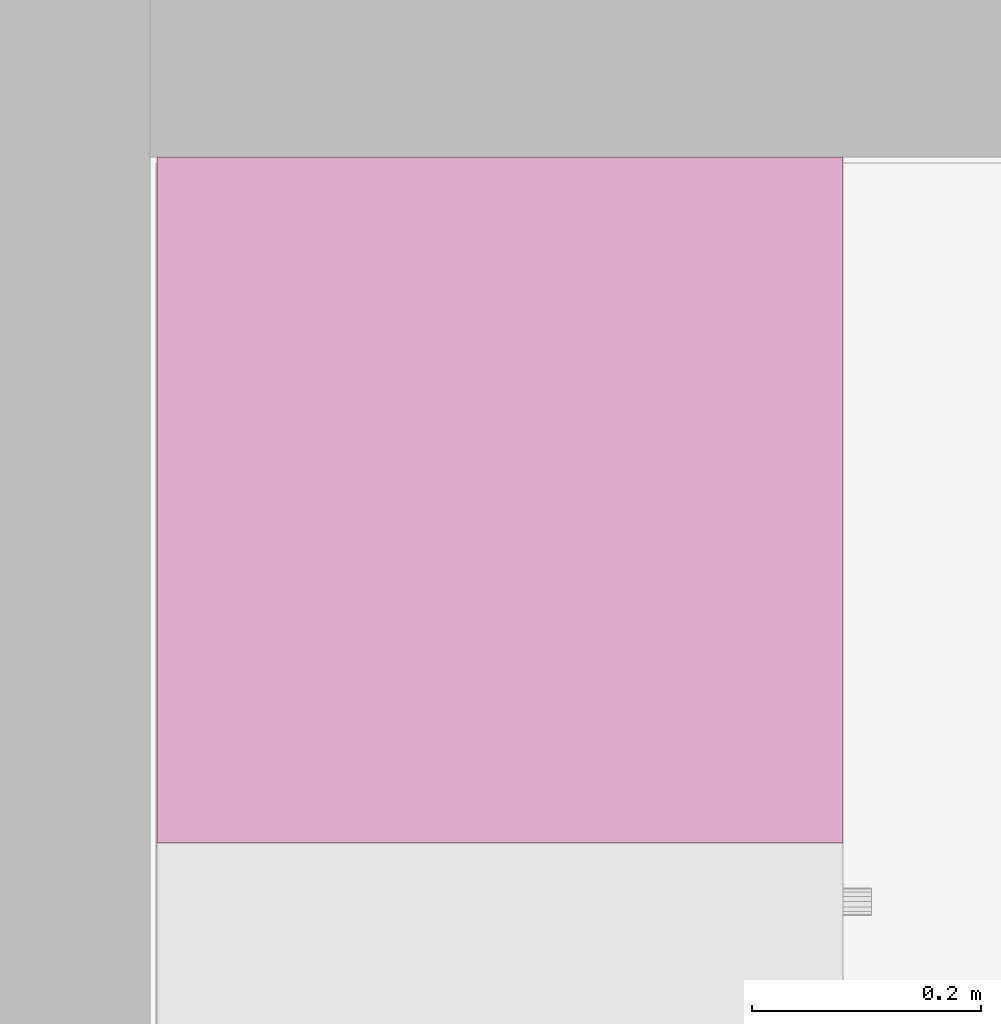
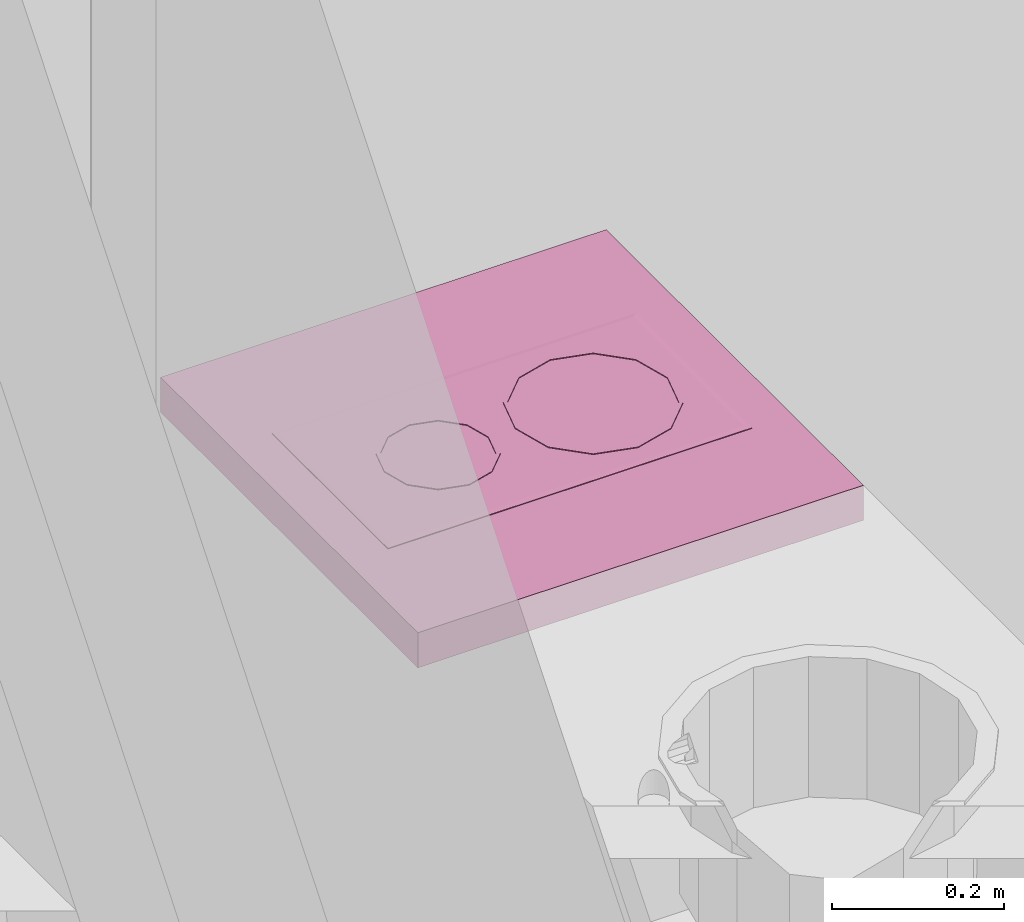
# One storey, part 160 of 172: 1 furnishing.
"""IFC2X3 building model written with IfcOpenShell, lengths in millimetres."""

from ifc_helpers import new_model, entity, si_unit, converted_unit, money_unit, direction, frame, origin_with_axes, place, context, subcontext, project, spatial, faceted_brep, source, transform, mapped, material, material_list, type_object, element, save


model = new_model("IFC2X3")

# Units and contexts
model_context = context("Model", 3, precision=1e-05, world=origin_with_axes(), true_north=direction((0.0, 1.0)))
body_context = subcontext(model_context, "Body", "Model", "MODEL_VIEW")
ifc_project = project(units=[si_unit("LENGTHUNIT", "METRE", prefix="MILLI"), si_unit("AREAUNIT", "SQUARE_METRE"), si_unit("VOLUMEUNIT", "CUBIC_METRE"), converted_unit("PLANEANGLEUNIT", "DEGREE", entity("IfcPlaneAngleMeasure", 0.0174532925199), si_unit("PLANEANGLEUNIT", "RADIAN"), dimensions=[0, 0, 0, 0, 0, 0, 0]), si_unit("SOLIDANGLEUNIT", "STERADIAN"), money_unit("USD"), converted_unit("TIMEUNIT", "Year", entity("IfcTimeMeasure", 31556926.0), si_unit("TIMEUNIT", "SECOND"), dimensions=[0, 0, 0, 0, 0, 0, 0]), si_unit("MASSUNIT", "GRAM"), si_unit("THERMODYNAMICTEMPERATUREUNIT", "DEGREE_CELSIUS"), si_unit("LUMINOUSINTENSITYUNIT", "LUMEN")], contexts=[model_context])

# Site, building, storey
site_placement = place(None, origin_with_axes())
site = spatial("IfcSite", under=ifc_project, at=site_placement, Name="Site", CompositionType="ELEMENT")
building_placement = place(site_placement, origin_with_axes())
building = spatial("IfcBuilding", under=site, at=building_placement, Name="Building", CompositionType="ELEMENT")
storey_placement = place(building_placement, frame((0.0, 0.0, 3200.0), z_axis=(0.0, 0.0, 1.0), x_axis=(1.0, 0.0, 0.0)))
storey = spatial("IfcBuildingStorey", under=building, at=storey_placement, Name="3KORRUS", CompositionType="ELEMENT", Elevation=3200.0)

# Furnishing
ifc_material = material(Name="Background")
ifc_material_list = material_list([ifc_material])
furnishing_element_type = type_object("IfcFurnishingElementType", Name="Built-in Cooktops 19")
shared_shape = source(origin_with_axes(), body_context, "Body", "Brep", [
    faceted_brep([(0.0, 0.0, 850.0), (0.0, 0.0, 900.0), (-600.0, 0.0, 900.0), (-600.0, 0.0, 850.0), (0.0, 600.0, 850.0), (0.0, 600.0, 900.0), (-600.0, 600.0, 900.0), (-600.0, 600.0, 850.0)], [[[0, 1, 2, 3]], [[4, 5, 1, 0]], [[1, 5, 6, 2]], [[3, 2, 6, 7]], [[0, 3, 7, 4]], [[7, 6, 5, 4]]]),
    faceted_brep([(-165.0, 55.0, 900.0), (-435.0, 55.0, 900.0), (-435.0, 545.0, 900.0), (-165.0, 545.0, 900.0), (-165.0, 55.0, 900.8), (-435.0, 55.0, 900.8), (-435.0, 545.0, 900.8), (-165.0, 545.0, 900.8), (-171.806, 61.806, 902.0), (-428.194, 61.806, 902.0), (-428.194, 538.194, 902.0), (-171.806, 538.194, 902.0)], [[[0, 1, 2, 3]], [[0, 4, 5, 1]], [[1, 5, 6, 2]], [[2, 6, 7, 3]], [[3, 7, 4, 0]], [[4, 8, 9, 5]], [[5, 9, 10, 6]], [[6, 10, 11, 7]], [[7, 11, 8, 4]], [[10, 9, 8, 11]]]),
    faceted_brep([(-195.0, 409.27, 902.0), (-195.0, 409.27, 903.0), (-209.067, 356.77, 903.0), (-209.067, 356.77, 902.0), (-209.067, 461.77, 902.0), (-209.067, 461.77, 903.0), (-247.5, 500.203, 903.0), (-300.0, 514.27, 903.0), (-352.5, 500.203, 903.0), (-390.933, 461.77, 903.0), (-405.0, 409.27, 903.0), (-390.933, 356.77, 903.0), (-352.5, 318.337, 903.0), (-300.0, 304.27, 903.0), (-247.5, 318.337, 903.0), (-200.0, 409.27, 903.0), (-213.397, 359.27, 903.0), (-250.0, 322.667, 903.0), (-300.0, 309.27, 903.0), (-350.0, 322.667, 903.0), (-386.603, 359.27, 903.0), (-400.0, 409.27, 903.0), (-386.603, 459.27, 903.0), (-350.0, 495.873, 903.0), (-300.0, 509.27, 903.0), (-250.0, 495.873, 903.0), (-213.397, 459.27, 903.0), (-247.5, 318.337, 902.0), (-300.0, 304.27, 902.0), (-352.5, 318.337, 902.0), (-390.933, 356.77, 902.0), (-405.0, 409.27, 902.0), (-390.933, 461.77, 902.0), (-352.5, 500.203, 902.0), (-300.0, 514.27, 902.0), (-247.5, 500.203, 902.0), (-200.0, 409.27, 902.0), (-213.397, 459.27, 902.0), (-250.0, 495.873, 902.0), (-300.0, 509.27, 902.0), (-350.0, 495.873, 902.0), (-386.603, 459.27, 902.0), (-400.0, 409.27, 902.0), (-386.603, 359.27, 902.0), (-350.0, 322.667, 902.0), (-300.0, 309.27, 902.0), (-250.0, 322.667, 902.0), (-213.397, 359.27, 902.0)], [[[0, 1, 2, 3]], [[4, 5, 1, 0]], [[1, 5, 6, 7, 8, 9, 10, 11, 12, 13, 14, 2], [15, 16, 17, 18, 19, 20, 21, 22, 23, 24, 25, 26]], [[3, 2, 14, 27]], [[0, 3, 27, 28, 29, 30, 31, 32, 33, 34, 35, 4], [36, 37, 38, 39, 40, 41, 42, 43, 44, 45, 46, 47]], [[35, 6, 5, 4]], [[34, 7, 6, 35]], [[33, 8, 7, 34]], [[32, 9, 8, 33]], [[31, 10, 9, 32]], [[30, 11, 10, 31]], [[29, 12, 11, 30]], [[28, 13, 12, 29]], [[27, 14, 13, 28]], [[47, 16, 15, 36]], [[46, 17, 16, 47]], [[45, 18, 17, 46]], [[44, 19, 18, 45]], [[43, 20, 19, 44]], [[42, 21, 20, 43]], [[41, 22, 21, 42]], [[40, 23, 22, 41]], [[39, 24, 23, 40]], [[38, 25, 24, 39]], [[37, 26, 25, 38]], [[36, 15, 26, 37]]]),
    faceted_brep([(-227.5, 200.53, 902.0), (-227.5, 200.53, 903.0), (-237.213, 164.28, 903.0), (-237.213, 164.28, 902.0), (-237.213, 236.78, 902.0), (-237.213, 236.78, 903.0), (-263.75, 263.317, 903.0), (-300.0, 273.03, 903.0), (-336.25, 263.317, 903.0), (-362.787, 236.78, 903.0), (-372.5, 200.53, 903.0), (-362.787, 164.28, 903.0), (-336.25, 137.743, 903.0), (-300.0, 128.03, 903.0), (-263.75, 137.743, 903.0), (-232.5, 200.53, 903.0), (-241.543, 166.78, 903.0), (-266.25, 142.073, 903.0), (-300.0, 133.03, 903.0), (-333.75, 142.073, 903.0), (-358.457, 166.78, 903.0), (-367.5, 200.53, 903.0), (-358.457, 234.28, 903.0), (-333.75, 258.987, 903.0), (-300.0, 268.03, 903.0), (-266.25, 258.987, 903.0), (-241.543, 234.28, 903.0), (-263.75, 137.743, 902.0), (-300.0, 128.03, 902.0), (-336.25, 137.743, 902.0), (-362.787, 164.28, 902.0), (-372.5, 200.53, 902.0), (-362.787, 236.78, 902.0), (-336.25, 263.317, 902.0), (-300.0, 273.03, 902.0), (-263.75, 263.317, 902.0), (-232.5, 200.53, 902.0), (-241.543, 234.28, 902.0), (-266.25, 258.987, 902.0), (-300.0, 268.03, 902.0), (-333.75, 258.987, 902.0), (-358.457, 234.28, 902.0), (-367.5, 200.53, 902.0), (-358.457, 166.78, 902.0), (-333.75, 142.073, 902.0), (-300.0, 133.03, 902.0), (-266.25, 142.073, 902.0), (-241.543, 166.78, 902.0)], [[[0, 1, 2, 3]], [[4, 5, 1, 0]], [[1, 5, 6, 7, 8, 9, 10, 11, 12, 13, 14, 2], [15, 16, 17, 18, 19, 20, 21, 22, 23, 24, 25, 26]], [[3, 2, 14, 27]], [[0, 3, 27, 28, 29, 30, 31, 32, 33, 34, 35, 4], [36, 37, 38, 39, 40, 41, 42, 43, 44, 45, 46, 47]], [[35, 6, 5, 4]], [[34, 7, 6, 35]], [[33, 8, 7, 34]], [[32, 9, 8, 33]], [[31, 10, 9, 32]], [[30, 11, 10, 31]], [[29, 12, 11, 30]], [[28, 13, 12, 29]], [[27, 14, 13, 28]], [[47, 16, 15, 36]], [[46, 17, 16, 47]], [[45, 18, 17, 46]], [[44, 19, 18, 45]], [[43, 20, 19, 44]], [[42, 21, 20, 43]], [[41, 22, 21, 42]], [[40, 23, 22, 41]], [[39, 24, 23, 40]], [[38, 25, 24, 39]], [[37, 26, 25, 38]], [[36, 15, 26, 37]]]),
])
furnishing_placement = place(storey_placement, frame((-29984.008308, -13789.2398994, 0.0), z_axis=(0.0, 0.0, 1.0), x_axis=(0.0, -1.0, 0.0)))
element("IfcFurnishingElement", 1, at=furnishing_placement, inside=storey, type_object=furnishing_element_type, material=ifc_material_list, Name="FU - 007", context=body_context, shape_type="MappedRepresentation", body=[
    mapped(shared_shape, transform((0.0, 0.0, 0.0))),
])

save(model, "model.ifc")
